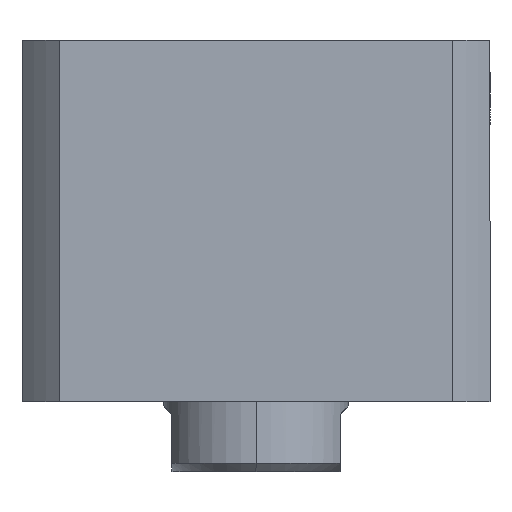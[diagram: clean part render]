
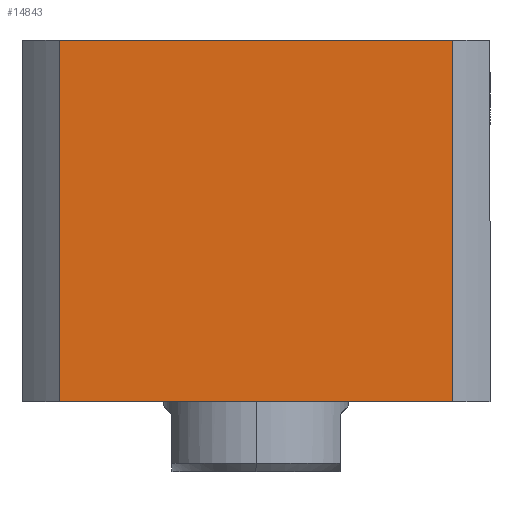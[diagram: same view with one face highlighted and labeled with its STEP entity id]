
A CAD part, front view. The second image highlights one B-rep face of the part: STEP entity #14843.
In plain terms, the highlighted planar face has unit normal (0, -1, 0) as drawn and (-1, 0, 0) by its records, which use the part's own axes.
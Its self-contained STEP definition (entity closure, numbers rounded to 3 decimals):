
#106 = LINE ( 'NONE', #14505, #5671 ) ;
#419 = CARTESIAN_POINT ( 'NONE',  ( -57., -47.971, 0. ) ) ;
#833 = EDGE_CURVE ( 'NONE', #10258, #14803, #106, .T. ) ;
#1081 = EDGE_CURVE ( 'NONE', #8141, #10258, #7320, .T. ) ;
#1315 = EDGE_LOOP ( 'NONE', ( #1721, #4331, #5437, #10602 ) ) ;
#1721 = ORIENTED_EDGE ( 'NONE', *, *, #1081, .F. ) ;
#2268 = CARTESIAN_POINT ( 'NONE',  ( -57., 47.971, 0. ) ) ;
#2906 = LINE ( 'NONE', #14927, #5723 ) ;
#4150 = CARTESIAN_POINT ( 'NONE',  ( -57., -47.971, -212. ) ) ;
#4162 = VECTOR ( 'NONE', #5456, 1000. ) ;
#4224 = LINE ( 'NONE', #4150, #12161 ) ;
#4331 = ORIENTED_EDGE ( 'NONE', *, *, #8731, .T. ) ;
#4407 = CARTESIAN_POINT ( 'NONE',  ( -57., 47.971, 88. ) ) ;
#5347 = DIRECTION ( 'NONE',  ( 0., 0., -1. ) ) ;
#5437 = ORIENTED_EDGE ( 'NONE', *, *, #7890, .F. ) ;
#5456 = DIRECTION ( 'NONE',  ( 0., 0., 1. ) ) ;
#5671 = VECTOR ( 'NONE', #13469, 1000. ) ;
#5723 = VECTOR ( 'NONE', #12622, 1000. ) ;
#6699 = FACE_OUTER_BOUND ( 'NONE', #1315, .T. ) ;
#7152 = CARTESIAN_POINT ( 'NONE',  ( -57., -47.971, 88. ) ) ;
#7304 = CARTESIAN_POINT ( 'NONE',  ( -57., 57., 88. ) ) ;
#7320 = LINE ( 'NONE', #13674, #4162 ) ;
#7890 = EDGE_CURVE ( 'NONE', #14803, #9935, #4224, .T. ) ;
#8141 = VERTEX_POINT ( 'NONE', #2268 ) ;
#8504 = PLANE ( 'NONE',  #9391 ) ;
#8731 = EDGE_CURVE ( 'NONE', #8141, #9935, #2906, .T. ) ;
#9391 = AXIS2_PLACEMENT_3D ( 'NONE', #7304, #11942, #9682 ) ;
#9682 = DIRECTION ( 'NONE',  ( 0., 1., 0. ) ) ;
#9935 = VERTEX_POINT ( 'NONE', #419 ) ;
#10258 = VERTEX_POINT ( 'NONE', #4407 ) ;
#10602 = ORIENTED_EDGE ( 'NONE', *, *, #833, .F. ) ;
#11942 = DIRECTION ( 'NONE',  ( 1., 0., 0. ) ) ;
#12161 = VECTOR ( 'NONE', #5347, 1000. ) ;
#12622 = DIRECTION ( 'NONE',  ( 0., -1., 0. ) ) ;
#13469 = DIRECTION ( 'NONE',  ( 0., -1., 0. ) ) ;
#13674 = CARTESIAN_POINT ( 'NONE',  ( -57., 47.971, -212. ) ) ;
#14505 = CARTESIAN_POINT ( 'NONE',  ( -57., 57., 88. ) ) ;
#14803 = VERTEX_POINT ( 'NONE', #7152 ) ;
#14843 = ADVANCED_FACE ( 'NONE', ( #6699 ), #8504, .F. ) ;
#14927 = CARTESIAN_POINT ( 'NONE',  ( -57., 57., 0. ) ) ;
